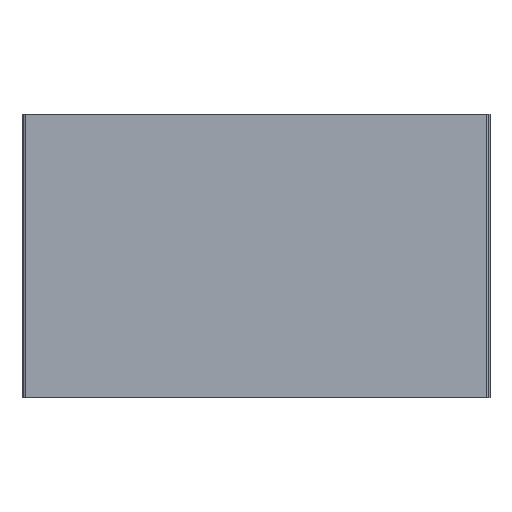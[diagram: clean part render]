
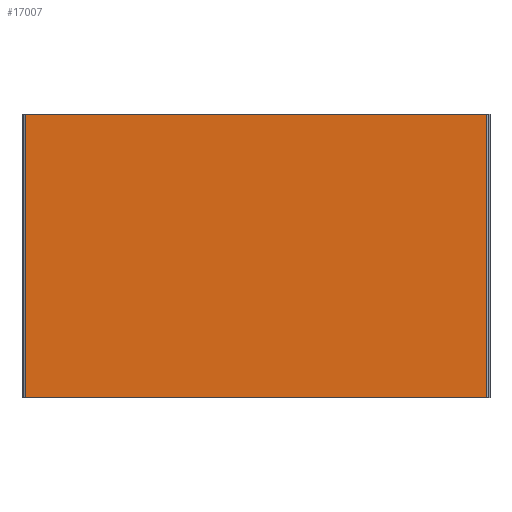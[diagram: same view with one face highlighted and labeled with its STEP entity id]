
A CAD part, front view. The second image highlights one B-rep face of the part: STEP entity #17007.
In plain terms, the highlighted planar face has unit normal (0, -1, 0).
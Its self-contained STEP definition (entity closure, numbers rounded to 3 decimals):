
#16947 = VERTEX_POINT ( 'NONE', #34514 ) ;
#16949 = EDGE_CURVE ( 'NONE', #16950, #16947, #34513, .T. ) ;
#16950 = VERTEX_POINT ( 'NONE', #34509 ) ;
#16989 = ORIENTED_EDGE ( 'NONE', *, *, #16949, .T. ) ;
#17007 = ADVANCED_FACE ( 'NONE', ( #34600 ), #34656, .F. ) ;
#17008 = EDGE_LOOP ( 'NONE', ( #17009, #17012, #17015, #16989 ) ) ;
#17009 = ORIENTED_EDGE ( 'NONE', *, *, #17010, .T. ) ;
#17010 = EDGE_CURVE ( 'NONE', #16947, #17011, #34651, .T. ) ;
#17011 = VERTEX_POINT ( 'NONE', #34647 ) ;
#17012 = ORIENTED_EDGE ( 'NONE', *, *, #17013, .F. ) ;
#17013 = EDGE_CURVE ( 'NONE', #17014, #17011, #34646, .T. ) ;
#17014 = VERTEX_POINT ( 'NONE', #34642 ) ;
#17015 = ORIENTED_EDGE ( 'NONE', *, *, #17016, .F. ) ;
#17016 = EDGE_CURVE ( 'NONE', #16950, #17014, #34641, .T. ) ;
#34509 = CARTESIAN_POINT ( 'NONE',  ( 70.436, 166.985, 50. ) ) ;
#34510 = DIRECTION ( 'NONE',  ( 0., 0., -1. ) ) ;
#34511 = VECTOR ( 'NONE', #34510, 1000. ) ;
#34512 = CARTESIAN_POINT ( 'NONE',  ( 70.436, 166.985, 50. ) ) ;
#34513 = LINE ( 'NONE', #34512, #34511 ) ;
#34514 = CARTESIAN_POINT ( 'NONE',  ( 70.436, 166.985, 0. ) ) ;
#34600 = FACE_OUTER_BOUND ( 'NONE', #17008, .T. ) ;
#34638 = DIRECTION ( 'NONE',  ( 1., 0., 0. ) ) ;
#34639 = VECTOR ( 'NONE', #34638, 1000. ) ;
#34640 = CARTESIAN_POINT ( 'NONE',  ( 117.14, 166.985, 50. ) ) ;
#34641 = LINE ( 'NONE', #34640, #34639 ) ;
#34642 = CARTESIAN_POINT ( 'NONE',  ( 151.837, 166.985, 50. ) ) ;
#34643 = DIRECTION ( 'NONE',  ( 0., 0., -1. ) ) ;
#34644 = VECTOR ( 'NONE', #34643, 1000. ) ;
#34645 = CARTESIAN_POINT ( 'NONE',  ( 151.837, 166.985, 50. ) ) ;
#34646 = LINE ( 'NONE', #34645, #34644 ) ;
#34647 = CARTESIAN_POINT ( 'NONE',  ( 151.837, 166.985, 0. ) ) ;
#34648 = DIRECTION ( 'NONE',  ( 1., 0., 0. ) ) ;
#34649 = VECTOR ( 'NONE', #34648, 1000. ) ;
#34650 = CARTESIAN_POINT ( 'NONE',  ( 117.14, 166.985, 0. ) ) ;
#34651 = LINE ( 'NONE', #34650, #34649 ) ;
#34652 = DIRECTION ( 'NONE',  ( -1., 0., 0. ) ) ;
#34653 = DIRECTION ( 'NONE',  ( 0., 1., 0. ) ) ;
#34654 = CARTESIAN_POINT ( 'NONE',  ( 117.14, 166.985, 50. ) ) ;
#34655 = AXIS2_PLACEMENT_3D ( 'NONE', #34654, #34653, #34652 ) ;
#34656 = PLANE ( 'NONE',  #34655 ) ;
